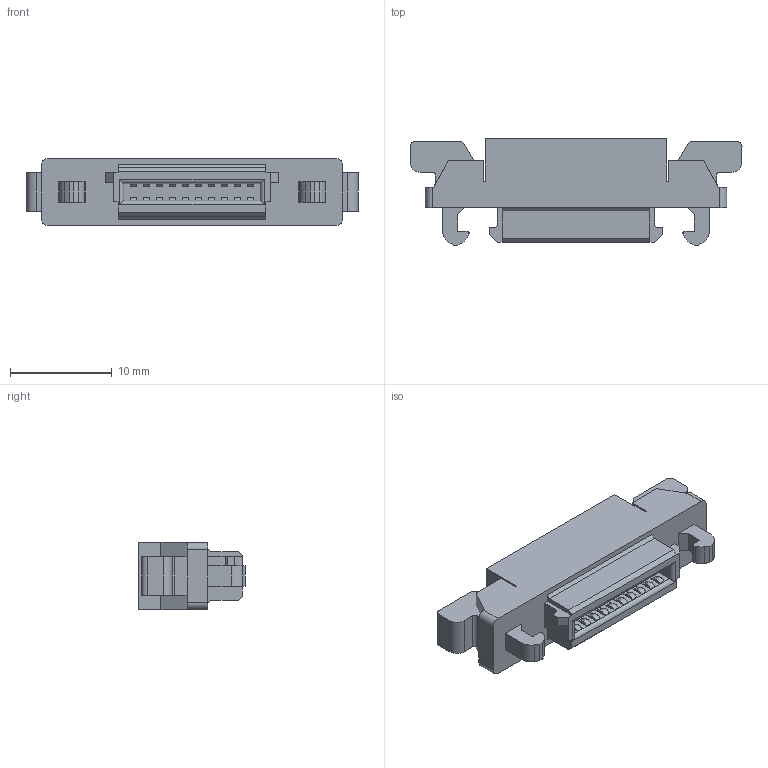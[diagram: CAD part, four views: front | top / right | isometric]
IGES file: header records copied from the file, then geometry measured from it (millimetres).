
Start section: Elysium IGES Interface
Global section: file name: 97HF:\恾柺搊榐\3DCAD\89XX\仛89钾敖迱粫i3D仛\web梡恾柺\4-IGES(恾斣_惢昳柤)\P39478_8925R-020-179-F.igs; native system: CoCreate Modeling 17.0B  09-Oct-2010; preprocessor: CoCreate IGES_3D V2.2; author: Unknown; organization: Unknown; date: 20180119.102335; units: millimetre
Bounding box: 32.64 x 10.5 x 6.6 mm (x, y, z)
Volume: 1411.7 mm3; surface area: 1260.8 mm2
Topology: 1 solids, 1 shells, 228 faces, 652 edges, 430 vertices
Faces by surface type: bspline 228
